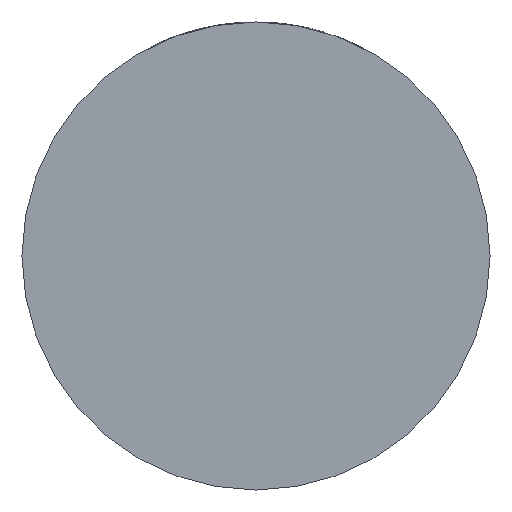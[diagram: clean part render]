
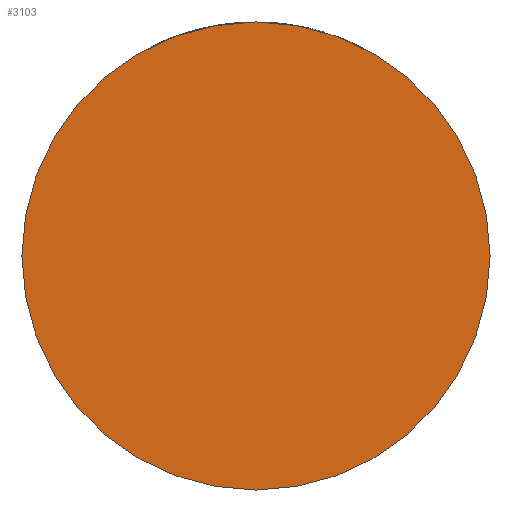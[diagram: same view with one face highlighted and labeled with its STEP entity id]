
A CAD part, front view. The second image highlights one B-rep face of the part: STEP entity #3103.
In plain terms, the highlighted planar face has unit normal (0, -1, 0).
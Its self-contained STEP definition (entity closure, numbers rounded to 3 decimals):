
#65 = DIRECTION ( 'NONE',  ( 1., 0., 0. ) ) ;
#90 = CARTESIAN_POINT ( 'NONE',  ( -74., -60., 0. ) ) ;
#446 = DIRECTION ( 'NONE',  ( 0., -1., 0. ) ) ;
#698 = DIRECTION ( 'NONE',  ( 1., 0., 0. ) ) ;
#764 = PLANE ( 'NONE',  #4440 ) ;
#1055 = CIRCLE ( 'NONE', #3851, 74. ) ;
#1205 = DIRECTION ( 'NONE',  ( 0., -1., 0. ) ) ;
#1339 = ORIENTED_EDGE ( 'NONE', *, *, #2465, .T. ) ;
#1834 = CARTESIAN_POINT ( 'NONE',  ( 0., -60., 0. ) ) ;
#1941 = CIRCLE ( 'NONE', #2555, 74. ) ;
#2300 = DIRECTION ( 'NONE',  ( 1., 0., 0. ) ) ;
#2465 = EDGE_CURVE ( 'NONE', #3796, #4197, #1055, .T. ) ;
#2555 = AXIS2_PLACEMENT_3D ( 'NONE', #2910, #446, #65 ) ;
#2868 = EDGE_CURVE ( 'NONE', #4197, #3796, #1941, .T. ) ;
#2902 = DIRECTION ( 'NONE',  ( 0., -1., 0. ) ) ;
#2910 = CARTESIAN_POINT ( 'NONE',  ( 0., -60., 0. ) ) ;
#3002 = CARTESIAN_POINT ( 'NONE',  ( 74., -60., 0. ) ) ;
#3103 = ADVANCED_FACE ( 'NONE', ( #4675 ), #764, .T. ) ;
#3165 = EDGE_LOOP ( 'NONE', ( #1339, #4399 ) ) ;
#3713 = CARTESIAN_POINT ( 'NONE',  ( 0., -60., 0. ) ) ;
#3796 = VERTEX_POINT ( 'NONE', #90 ) ;
#3851 = AXIS2_PLACEMENT_3D ( 'NONE', #3713, #1205, #2300 ) ;
#4197 = VERTEX_POINT ( 'NONE', #3002 ) ;
#4399 = ORIENTED_EDGE ( 'NONE', *, *, #2868, .T. ) ;
#4440 = AXIS2_PLACEMENT_3D ( 'NONE', #1834, #2902, #698 ) ;
#4675 = FACE_OUTER_BOUND ( 'NONE', #3165, .T. ) ;
